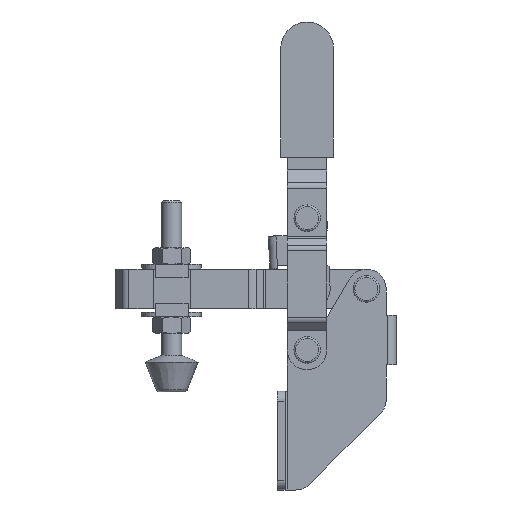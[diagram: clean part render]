
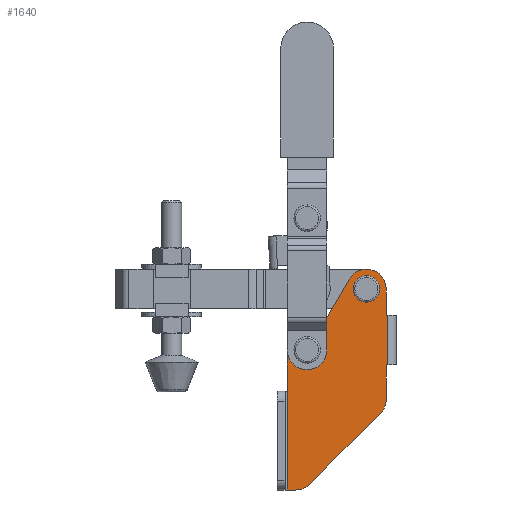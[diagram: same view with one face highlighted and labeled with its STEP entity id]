
A CAD part, front view. The second image highlights one B-rep face of the part: STEP entity #1640.
In plain terms, the highlighted planar face has unit normal (0, -1, 0).
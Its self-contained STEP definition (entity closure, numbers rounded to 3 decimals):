
#365=CARTESIAN_POINT('Cartesian Point',(35.057,-4.6,30.)) ;
#428=CARTESIAN_POINT('Line Origine',(35.09,-4.6,36.25)) ;
#432=CARTESIAN_POINT('Cartesian Point',(35.09,-4.6,42.5)) ;
#491=CARTESIAN_POINT('Cartesian Point',(41.09,-4.6,48.5)) ;
#499=CARTESIAN_POINT('Axis2P3D Location',(41.09,-4.6,42.5)) ;
#542=CARTESIAN_POINT('Line Origine',(42.441,-4.6,48.5)) ;
#546=CARTESIAN_POINT('Cartesian Point',(43.791,-4.6,48.5)) ;
#599=CARTESIAN_POINT('Axis2P3D Location',(43.791,-4.6,50.5)) ;
#603=CARTESIAN_POINT('Cartesian Point',(45.523,-4.6,49.5)) ;
#656=CARTESIAN_POINT('Line Origine',(46.307,-4.6,50.858)) ;
#660=CARTESIAN_POINT('Cartesian Point',(47.09,-4.6,52.215)) ;
#713=CARTESIAN_POINT('Line Origine',(50.492,-4.6,58.108)) ;
#717=CARTESIAN_POINT('Cartesian Point',(53.894,-4.6,64.)) ;
#750=CARTESIAN_POINT('Cartesian Point',(65.09,-4.6,61.)) ;
#765=CARTESIAN_POINT('Axis2P3D Location',(59.09,-4.6,61.)) ;
#769=CARTESIAN_POINT('Cartesian Point',(59.09,-4.6,67.)) ;
#772=CARTESIAN_POINT('Axis2P3D Location',(59.09,-4.6,61.)) ;
#865=CARTESIAN_POINT('Cartesian Point',(65.09,-4.6,53.)) ;
#873=CARTESIAN_POINT('Line Origine',(65.09,-4.6,57.)) ;
#909=CARTESIAN_POINT('Line Origine',(65.34,-4.6,53.)) ;
#913=CARTESIAN_POINT('Cartesian Point',(65.59,-4.6,53.)) ;
#1016=CARTESIAN_POINT('Cartesian Point',(65.59,-4.6,38.)) ;
#1019=CARTESIAN_POINT('Line Origine',(65.34,-4.6,38.)) ;
#1023=CARTESIAN_POINT('Cartesian Point',(65.09,-4.6,38.)) ;
#1102=CARTESIAN_POINT('Cartesian Point',(65.09,-4.6,27.485)) ;
#1110=CARTESIAN_POINT('Line Origine',(65.09,-4.6,32.743)) ;
#1159=CARTESIAN_POINT('Cartesian Point',(63.333,-4.6,23.243)) ;
#1167=CARTESIAN_POINT('Axis2P3D Location',(59.09,-4.6,27.485)) ;
#1216=CARTESIAN_POINT('Cartesian Point',(41.848,-4.6,1.757)) ;
#1224=CARTESIAN_POINT('Line Origine',(52.59,-4.6,12.5)) ;
#1273=CARTESIAN_POINT('Cartesian Point',(37.605,-4.6,0.)) ;
#1281=CARTESIAN_POINT('Axis2P3D Location',(37.605,-4.6,6.)) ;
#1310=CARTESIAN_POINT('Line Origine',(36.331,-4.6,0.)) ;
#1314=CARTESIAN_POINT('Cartesian Point',(35.057,-4.6,0.)) ;
#1562=CARTESIAN_POINT('Line Origine',(65.59,-4.6,33.5)) ;
#1574=CARTESIAN_POINT('Axis2P3D Location',(65.59,-4.6,0.)) ;
#1579=CARTESIAN_POINT('Line Origine',(35.057,-4.6,15.)) ;
#1604=CARTESIAN_POINT('Axis2P3D Location',(41.09,-4.6,42.5)) ;
#1608=CARTESIAN_POINT('Cartesian Point',(41.09,-4.6,39.5)) ;
#1610=CARTESIAN_POINT('Cartesian Point',(41.09,-4.6,45.5)) ;
#1613=CARTESIAN_POINT('Axis2P3D Location',(41.09,-4.6,42.5)) ;
#1622=CARTESIAN_POINT('Axis2P3D Location',(59.09,-4.6,61.)) ;
#1626=CARTESIAN_POINT('Cartesian Point',(59.09,-4.6,58.)) ;
#1628=CARTESIAN_POINT('Cartesian Point',(59.09,-4.6,64.)) ;
#1631=CARTESIAN_POINT('Axis2P3D Location',(59.09,-4.6,61.)) ;
#429=DIRECTION('Vector Direction',(0.,0.,-1.)) ;
#500=DIRECTION('Axis2P3D Direction',(0.,-1.,0.)) ;
#543=DIRECTION('Vector Direction',(-1.,0.,0.)) ;
#600=DIRECTION('Axis2P3D Direction',(0.,-1.,0.)) ;
#657=DIRECTION('Vector Direction',(-0.5,0.,-0.866)) ;
#714=DIRECTION('Vector Direction',(-0.5,0.,-0.866)) ;
#766=DIRECTION('Axis2P3D Direction',(0.,-1.,0.)) ;
#773=DIRECTION('Axis2P3D Direction',(0.,-1.,0.)) ;
#874=DIRECTION('Vector Direction',(0.,0.,-1.)) ;
#910=DIRECTION('Vector Direction',(-1.,0.,0.)) ;
#1020=DIRECTION('Vector Direction',(-1.,0.,0.)) ;
#1111=DIRECTION('Vector Direction',(0.,0.,-1.)) ;
#1168=DIRECTION('Axis2P3D Direction',(0.,-1.,0.)) ;
#1225=DIRECTION('Vector Direction',(-0.707,0.,-0.707)) ;
#1282=DIRECTION('Axis2P3D Direction',(0.,-1.,0.)) ;
#1311=DIRECTION('Vector Direction',(1.,0.,0.)) ;
#1563=DIRECTION('Vector Direction',(0.,0.,1.)) ;
#1575=DIRECTION('Axis2P3D Direction',(0.,1.,0.)) ;
#1576=DIRECTION('Axis2P3D XDirection',(0.,0.,-1.)) ;
#1580=DIRECTION('Vector Direction',(0.,0.,1.)) ;
#1605=DIRECTION('Axis2P3D Direction',(0.,1.,0.)) ;
#1614=DIRECTION('Axis2P3D Direction',(0.,1.,0.)) ;
#1623=DIRECTION('Axis2P3D Direction',(0.,1.,0.)) ;
#1632=DIRECTION('Axis2P3D Direction',(0.,1.,0.)) ;
#501=AXIS2_PLACEMENT_3D('Circle Axis2P3D',#499,#500,$) ;
#601=AXIS2_PLACEMENT_3D('Circle Axis2P3D',#599,#600,$) ;
#767=AXIS2_PLACEMENT_3D('Circle Axis2P3D',#765,#766,$) ;
#774=AXIS2_PLACEMENT_3D('Circle Axis2P3D',#772,#773,$) ;
#1169=AXIS2_PLACEMENT_3D('Circle Axis2P3D',#1167,#1168,$) ;
#1283=AXIS2_PLACEMENT_3D('Circle Axis2P3D',#1281,#1282,$) ;
#1577=AXIS2_PLACEMENT_3D('Plane Axis2P3D',#1574,#1575,#1576) ;
#1606=AXIS2_PLACEMENT_3D('Circle Axis2P3D',#1604,#1605,$) ;
#1615=AXIS2_PLACEMENT_3D('Circle Axis2P3D',#1613,#1614,$) ;
#1624=AXIS2_PLACEMENT_3D('Circle Axis2P3D',#1622,#1623,$) ;
#1633=AXIS2_PLACEMENT_3D('Circle Axis2P3D',#1631,#1632,$) ;
#1585=ORIENTED_EDGE('Oriented Edge',*,*,#1316,.T.) ;
#1586=ORIENTED_EDGE('Oriented Edge',*,*,#1285,.F.) ;
#1587=ORIENTED_EDGE('Oriented Edge',*,*,#1228,.F.) ;
#1588=ORIENTED_EDGE('Oriented Edge',*,*,#1171,.F.) ;
#1589=ORIENTED_EDGE('Oriented Edge',*,*,#1114,.F.) ;
#1590=ORIENTED_EDGE('Oriented Edge',*,*,#1025,.F.) ;
#1591=ORIENTED_EDGE('Oriented Edge',*,*,#1566,.T.) ;
#1592=ORIENTED_EDGE('Oriented Edge',*,*,#915,.T.) ;
#1593=ORIENTED_EDGE('Oriented Edge',*,*,#877,.F.) ;
#1594=ORIENTED_EDGE('Oriented Edge',*,*,#776,.F.) ;
#1595=ORIENTED_EDGE('Oriented Edge',*,*,#771,.F.) ;
#1596=ORIENTED_EDGE('Oriented Edge',*,*,#719,.T.) ;
#1597=ORIENTED_EDGE('Oriented Edge',*,*,#662,.T.) ;
#1598=ORIENTED_EDGE('Oriented Edge',*,*,#605,.T.) ;
#1599=ORIENTED_EDGE('Oriented Edge',*,*,#548,.T.) ;
#1600=ORIENTED_EDGE('Oriented Edge',*,*,#503,.F.) ;
#1601=ORIENTED_EDGE('Oriented Edge',*,*,#434,.T.) ;
#1602=ORIENTED_EDGE('Oriented Edge',*,*,#1583,.F.) ;
#1619=ORIENTED_EDGE('Oriented Edge',*,*,#1612,.T.) ;
#1620=ORIENTED_EDGE('Oriented Edge',*,*,#1617,.T.) ;
#1637=ORIENTED_EDGE('Oriented Edge',*,*,#1630,.T.) ;
#1638=ORIENTED_EDGE('Oriented Edge',*,*,#1635,.T.) ;
#1621=FACE_BOUND('Face Bound',#1618,.T.) ;
#1639=FACE_BOUND('Face Bound',#1636,.T.) ;
#430=VECTOR('Line Direction',#429,1.) ;
#544=VECTOR('Line Direction',#543,1.) ;
#658=VECTOR('Line Direction',#657,1.) ;
#715=VECTOR('Line Direction',#714,1.) ;
#875=VECTOR('Line Direction',#874,1.) ;
#911=VECTOR('Line Direction',#910,1.) ;
#1021=VECTOR('Line Direction',#1020,1.) ;
#1112=VECTOR('Line Direction',#1111,1.) ;
#1226=VECTOR('Line Direction',#1225,1.) ;
#1312=VECTOR('Line Direction',#1311,1.) ;
#1564=VECTOR('Line Direction',#1563,1.) ;
#1581=VECTOR('Line Direction',#1580,1.) ;
#1640=ADVANCED_FACE('',(#1603,#1621,#1639),#1578,.F.) ;
#502=CIRCLE('generated circle',#501,6.) ;
#602=CIRCLE('generated circle',#601,2.) ;
#768=CIRCLE('generated circle',#767,6.) ;
#775=CIRCLE('generated circle',#774,6.) ;
#1170=CIRCLE('generated circle',#1169,6.) ;
#1284=CIRCLE('generated circle',#1283,6.) ;
#1607=CIRCLE('generated circle',#1606,3.) ;
#1616=CIRCLE('generated circle',#1615,3.) ;
#1625=CIRCLE('generated circle',#1624,3.) ;
#1634=CIRCLE('generated circle',#1633,3.) ;
#434=EDGE_CURVE('',#433,#366,#431,.T.) ;
#503=EDGE_CURVE('',#433,#492,#502,.F.) ;
#548=EDGE_CURVE('',#547,#492,#545,.T.) ;
#605=EDGE_CURVE('',#604,#547,#602,.F.) ;
#662=EDGE_CURVE('',#661,#604,#659,.T.) ;
#719=EDGE_CURVE('',#718,#661,#716,.T.) ;
#771=EDGE_CURVE('',#718,#770,#768,.F.) ;
#776=EDGE_CURVE('',#770,#751,#775,.F.) ;
#877=EDGE_CURVE('',#751,#866,#876,.T.) ;
#915=EDGE_CURVE('',#914,#866,#912,.T.) ;
#1025=EDGE_CURVE('',#1017,#1024,#1022,.T.) ;
#1114=EDGE_CURVE('',#1024,#1103,#1113,.T.) ;
#1171=EDGE_CURVE('',#1103,#1160,#1170,.F.) ;
#1228=EDGE_CURVE('',#1160,#1217,#1227,.T.) ;
#1285=EDGE_CURVE('',#1217,#1274,#1284,.F.) ;
#1316=EDGE_CURVE('',#1315,#1274,#1313,.T.) ;
#1566=EDGE_CURVE('',#1017,#914,#1565,.T.) ;
#1583=EDGE_CURVE('',#1315,#366,#1582,.T.) ;
#1612=EDGE_CURVE('',#1609,#1611,#1607,.T.) ;
#1617=EDGE_CURVE('',#1611,#1609,#1616,.T.) ;
#1630=EDGE_CURVE('',#1627,#1629,#1625,.T.) ;
#1635=EDGE_CURVE('',#1629,#1627,#1634,.T.) ;
#1584=EDGE_LOOP('Oriented Loop',(#1585,#1586,#1587,#1588,#1589,#1590,#1591,#1592,#1593,#1594,#1595,#1596,#1597,#1598,#1599,#1600,#1601,#1602)) ;
#1618=EDGE_LOOP('Oriented Loop',(#1619,#1620)) ;
#1636=EDGE_LOOP('Oriented Loop',(#1637,#1638)) ;
#1603=FACE_OUTER_BOUND('Face Bound',#1584,.T.) ;
#431=LINE('Line',#428,#430) ;
#545=LINE('Line',#542,#544) ;
#659=LINE('Line',#656,#658) ;
#716=LINE('Line',#713,#715) ;
#876=LINE('Line',#873,#875) ;
#912=LINE('Line',#909,#911) ;
#1022=LINE('Line',#1019,#1021) ;
#1113=LINE('Line',#1110,#1112) ;
#1227=LINE('Line',#1224,#1226) ;
#1313=LINE('Line',#1310,#1312) ;
#1565=LINE('Line',#1562,#1564) ;
#1582=LINE('Line',#1579,#1581) ;
#1578=PLANE('Plane',#1577) ;
#366=VERTEX_POINT('Vertex Point',#365) ;
#433=VERTEX_POINT('Vertex Point',#432) ;
#492=VERTEX_POINT('Vertex Point',#491) ;
#547=VERTEX_POINT('Vertex Point',#546) ;
#604=VERTEX_POINT('Vertex Point',#603) ;
#661=VERTEX_POINT('Vertex Point',#660) ;
#718=VERTEX_POINT('Vertex Point',#717) ;
#751=VERTEX_POINT('Vertex Point',#750) ;
#770=VERTEX_POINT('Vertex Point',#769) ;
#866=VERTEX_POINT('Vertex Point',#865) ;
#914=VERTEX_POINT('Vertex Point',#913) ;
#1017=VERTEX_POINT('Vertex Point',#1016) ;
#1024=VERTEX_POINT('Vertex Point',#1023) ;
#1103=VERTEX_POINT('Vertex Point',#1102) ;
#1160=VERTEX_POINT('Vertex Point',#1159) ;
#1217=VERTEX_POINT('Vertex Point',#1216) ;
#1274=VERTEX_POINT('Vertex Point',#1273) ;
#1315=VERTEX_POINT('Vertex Point',#1314) ;
#1609=VERTEX_POINT('Vertex Point',#1608) ;
#1611=VERTEX_POINT('Vertex Point',#1610) ;
#1627=VERTEX_POINT('Vertex Point',#1626) ;
#1629=VERTEX_POINT('Vertex Point',#1628) ;
